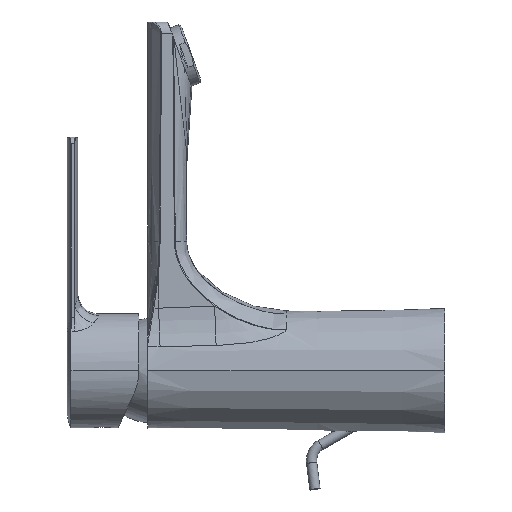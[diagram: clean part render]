
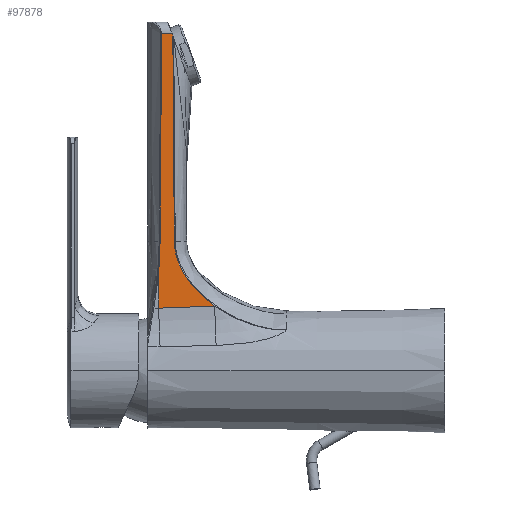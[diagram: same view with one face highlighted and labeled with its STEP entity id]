
A CAD part, left-side view. The second image highlights one B-rep face of the part: STEP entity #97878.
In plain terms, the highlighted planar face has unit normal (-1, 0, 0).
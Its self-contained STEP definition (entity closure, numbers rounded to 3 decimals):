
#7163=DIRECTION('',(0.,-0.342,-0.94));
#7164=VECTOR('',#7163,1.061);
#7165=CARTESIAN_POINT('',(-17.,105.18,130.));
#7166=LINE('',#7165,#7164);
#7167=CARTESIAN_POINT('',(-17.,104.264,49.998));
#7168=CARTESIAN_POINT('',(-17.,104.326,58.776));
#7169=CARTESIAN_POINT('',(-17.,104.448,76.333));
#7170=CARTESIAN_POINT('',(-17.,104.633,102.668));
#7171=CARTESIAN_POINT('',(-17.,104.756,120.225));
#7172=CARTESIAN_POINT('',(-17.,104.817,129.003));
#7174=CARTESIAN_POINT('',(-17.,88.702,24.912));
#7175=CARTESIAN_POINT('',(-17.,89.158,25.24));
#7176=CARTESIAN_POINT('',(-17.,90.048,25.902));
#7177=CARTESIAN_POINT('',(-17.,91.321,26.914));
#7178=CARTESIAN_POINT('',(-17.,92.529,27.94));
#7179=CARTESIAN_POINT('',(-17.,93.671,28.975));
#7180=CARTESIAN_POINT('',(-17.,94.747,30.018));
#7181=CARTESIAN_POINT('',(-17.,95.756,31.062));
#7182=CARTESIAN_POINT('',(-17.,96.698,32.106));
#7183=CARTESIAN_POINT('',(-17.,97.573,33.145));
#7184=CARTESIAN_POINT('',(-17.,98.384,34.178));
#7185=CARTESIAN_POINT('',(-17.,99.132,35.203));
#7186=CARTESIAN_POINT('',(-17.,99.819,36.218));
#7187=CARTESIAN_POINT('',(-17.,100.448,37.222));
#7188=CARTESIAN_POINT('',(-17.,101.021,38.215));
#7189=CARTESIAN_POINT('',(-17.,101.54,39.196));
#7190=CARTESIAN_POINT('',(-17.,102.007,40.165));
#7191=CARTESIAN_POINT('',(-17.,102.424,41.121));
#7192=CARTESIAN_POINT('',(-17.,102.794,42.063));
#7193=CARTESIAN_POINT('',(-17.,103.119,42.992));
#7194=CARTESIAN_POINT('',(-17.,103.399,43.906));
#7195=CARTESIAN_POINT('',(-17.,103.637,44.807));
#7196=CARTESIAN_POINT('',(-17.,103.835,45.692));
#7197=CARTESIAN_POINT('',(-17.,103.993,46.566));
#7198=CARTESIAN_POINT('',(-17.,104.116,47.432));
#7199=CARTESIAN_POINT('',(-17.,104.202,48.292));
#7200=CARTESIAN_POINT('',(-17.,104.253,49.147));
#7201=CARTESIAN_POINT('',(-17.,104.264,49.714));
#7202=CARTESIAN_POINT('',(-17.,104.264,49.998));
#7204=CARTESIAN_POINT('',(-17.,110.321,24.11));
#7205=CARTESIAN_POINT('',(-17.,107.927,24.2));
#7206=CARTESIAN_POINT('',(-17.,103.134,24.379));
#7207=CARTESIAN_POINT('',(-17.,95.928,24.647));
#7208=CARTESIAN_POINT('',(-17.,91.112,24.824));
#7209=CARTESIAN_POINT('',(-17.,88.702,24.912));
#7211=DIRECTION('',(0.,-0.007,1.));
#7212=VECTOR('',#7211,14.949);
#7213=CARTESIAN_POINT('',(-17.,110.321,24.11));
#7214=LINE('',#7213,#7212);
#7215=CARTESIAN_POINT('',(-17.,109.736,49.995));
#7216=CARTESIAN_POINT('',(-17.,109.742,49.083));
#7217=CARTESIAN_POINT('',(-17.,109.771,47.259));
#7218=CARTESIAN_POINT('',(-17.,109.865,44.524));
#7219=CARTESIAN_POINT('',(-17.,110.009,41.79));
#7220=CARTESIAN_POINT('',(-17.,110.138,39.969));
#7221=CARTESIAN_POINT('',(-17.,110.211,39.059));
#7223=CARTESIAN_POINT('',(-17.,109.176,130.));
#7224=CARTESIAN_POINT('',(-17.,109.239,120.998));
#7225=CARTESIAN_POINT('',(-17.,109.364,103.069));
#7226=CARTESIAN_POINT('',(-17.,109.551,76.401));
#7227=CARTESIAN_POINT('',(-17.,109.674,58.772));
#7228=CARTESIAN_POINT('',(-17.,109.736,49.995));
#7230=DIRECTION('',(0.,1.,0.));
#7231=VECTOR('',#7230,3.995);
#7232=CARTESIAN_POINT('',(-17.,105.18,130.));
#7233=LINE('',#7232,#7231);
#7243=CARTESIAN_POINT('',(-17.,104.264,49.998));
#7925=CARTESIAN_POINT('',(-17.,110.211,39.059));
#8189=CARTESIAN_POINT('',(-17.,88.702,24.912));
#78571=CARTESIAN_POINT('',(-17.,110.321,24.109));
#78573=VERTEX_POINT('',#78571);
#78578=VERTEX_POINT('',#7243);
#78588=VERTEX_POINT('',#8189);
#78615=VERTEX_POINT('',#7925);
#78623=VERTEX_POINT('',#7215);
#78625=VERTEX_POINT('',#7223);
#78669=CARTESIAN_POINT('',(-17.,105.18,130.));
#78670=CARTESIAN_POINT('',(-17.,104.817,129.003));
#78671=VERTEX_POINT('',#78669);
#78672=VERTEX_POINT('',#78670);
#97857=CARTESIAN_POINT('',(-17.,93.109,23.801));
#97858=DIRECTION('',(-1.,0.,0.));
#97859=DIRECTION('',(0.,0.007,1.));
#97860=AXIS2_PLACEMENT_3D('',#97857,#97858,#97859);
#97861=PLANE('',#97860);
#97862=ORIENTED_EDGE('',*,*,#97808,.T.);
#97864=ORIENTED_EDGE('',*,*,#97863,.F.);
#97866=ORIENTED_EDGE('',*,*,#97865,.F.);
#97868=ORIENTED_EDGE('',*,*,#97867,.F.);
#97870=ORIENTED_EDGE('',*,*,#97869,.T.);
#97872=ORIENTED_EDGE('',*,*,#97871,.F.);
#97874=ORIENTED_EDGE('',*,*,#97873,.F.);
#97875=ORIENTED_EDGE('',*,*,#97849,.F.);
#97876=EDGE_LOOP('',(#97862,#97864,#97866,#97868,#97870,#97872,#97874,#97875));
#97877=FACE_OUTER_BOUND('',#97876,.F.);
#97878=ADVANCED_FACE('',(#97877),#97861,.T.);
#7173=B_SPLINE_CURVE_WITH_KNOTS('',3,(#7167,#7168,#7169,#7170,#7171,#7172),
.UNSPECIFIED.,.F.,.F.,(4,1,1,4),(0.,0.333,0.667,1.),
.UNSPECIFIED.);
#7203=B_SPLINE_CURVE_WITH_KNOTS('',3,(#7174,#7175,#7176,#7177,#7178,#7179,#7180,
#7181,#7182,#7183,#7184,#7185,#7186,#7187,#7188,#7189,#7190,#7191,#7192,#7193,
#7194,#7195,#7196,#7197,#7198,#7199,#7200,#7201,#7202),.UNSPECIFIED.,.F.,.F.,(4,
1,1,1,1,1,1,1,1,1,1,1,1,1,1,1,1,1,1,1,1,1,1,1,1,1,4),(0.,0.038,
0.077,0.115,0.154,0.192,
0.231,0.269,0.308,0.346,
0.385,0.423,0.462,0.5,0.538,
0.577,0.615,0.654,0.692,
0.731,0.769,0.808,0.846,
0.885,0.923,0.962,1.),.UNSPECIFIED.);
#7210=B_SPLINE_CURVE_WITH_KNOTS('',3,(#7204,#7205,#7206,#7207,#7208,#7209),
.UNSPECIFIED.,.F.,.F.,(4,1,1,4),(0.,0.333,0.667,1.),
.UNSPECIFIED.);
#7222=B_SPLINE_CURVE_WITH_KNOTS('',3,(#7215,#7216,#7217,#7218,#7219,#7220,
#7221),.UNSPECIFIED.,.F.,.F.,(4,1,1,1,4),(0.,0.25,0.5,0.75,1.),
.UNSPECIFIED.);
#7229=B_SPLINE_CURVE_WITH_KNOTS('',3,(#7223,#7224,#7225,#7226,#7227,#7228),
.UNSPECIFIED.,.F.,.F.,(4,1,1,4),(0.,0.333,0.667,1.),
.UNSPECIFIED.);
#97808=EDGE_CURVE('',#78671,#78672,#7166,.T.);
#97849=EDGE_CURVE('',#78671,#78625,#7233,.T.);
#97863=EDGE_CURVE('',#78578,#78672,#7173,.T.);
#97865=EDGE_CURVE('',#78588,#78578,#7203,.T.);
#97867=EDGE_CURVE('',#78573,#78588,#7210,.T.);
#97869=EDGE_CURVE('',#78573,#78615,#7214,.T.);
#97871=EDGE_CURVE('',#78623,#78615,#7222,.T.);
#97873=EDGE_CURVE('',#78625,#78623,#7229,.T.);
